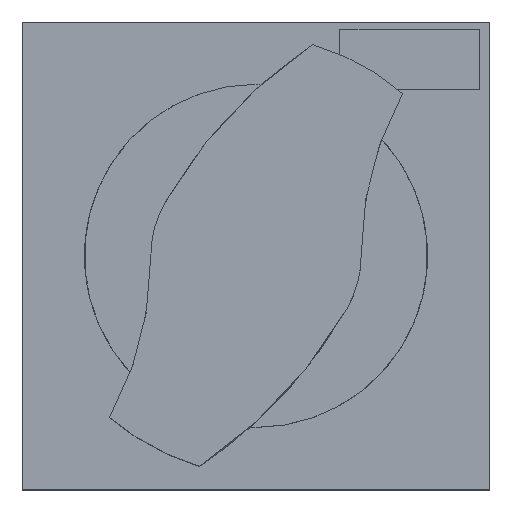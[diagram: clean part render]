
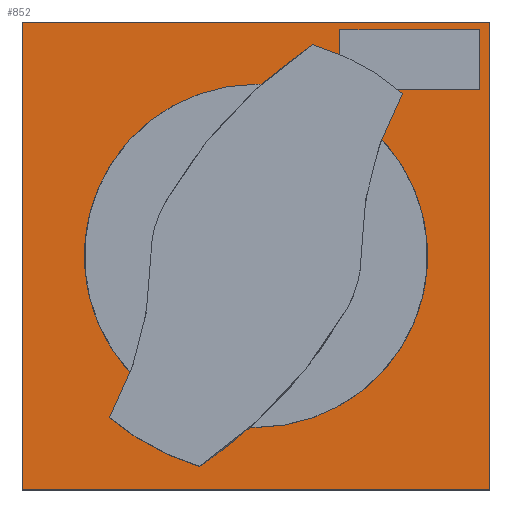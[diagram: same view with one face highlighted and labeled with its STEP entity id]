
A CAD part, top view. The second image highlights one B-rep face of the part: STEP entity #852.
In plain terms, the highlighted planar face has unit normal (0, 0, 1).
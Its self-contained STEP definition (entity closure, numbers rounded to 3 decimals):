
#631=DIRECTION('',(0.,-1.,0.));
#632=VECTOR('',#631,75.);
#633=CARTESIAN_POINT('',(-37.5,37.5,6.75));
#634=LINE('',#633,#632);
#635=DIRECTION('',(-1.,0.,0.));
#636=VECTOR('',#635,75.);
#637=CARTESIAN_POINT('',(37.5,37.5,6.75));
#638=LINE('',#637,#636);
#639=DIRECTION('',(0.,1.,0.));
#640=VECTOR('',#639,75.);
#641=CARTESIAN_POINT('',(37.5,-37.5,6.75));
#642=LINE('',#641,#640);
#643=DIRECTION('',(1.,0.,0.));
#644=VECTOR('',#643,75.);
#645=CARTESIAN_POINT('',(-37.5,-37.5,6.75));
#646=LINE('',#645,#644);
#647=DIRECTION('',(0.,-1.,0.));
#648=VECTOR('',#647,9.501);
#649=CARTESIAN_POINT('',(13.45,36.251,6.75));
#650=LINE('',#649,#648);
#651=DIRECTION('',(1.,0.,0.));
#652=VECTOR('',#651,22.4);
#653=CARTESIAN_POINT('',(13.45,26.749,6.75));
#654=LINE('',#653,#652);
#655=DIRECTION('',(0.,1.,0.));
#656=VECTOR('',#655,9.501);
#657=CARTESIAN_POINT('',(35.85,26.749,6.75));
#658=LINE('',#657,#656);
#659=DIRECTION('',(-1.,0.,0.));
#660=VECTOR('',#659,22.4);
#661=CARTESIAN_POINT('',(35.85,36.251,6.75));
#662=LINE('',#661,#660);
#721=CARTESIAN_POINT('',(-37.5,37.5,6.75));
#722=CARTESIAN_POINT('',(-37.5,-37.5,6.75));
#723=VERTEX_POINT('',#721);
#724=VERTEX_POINT('',#722);
#725=CARTESIAN_POINT('',(37.5,-37.5,6.75));
#726=VERTEX_POINT('',#725);
#727=CARTESIAN_POINT('',(37.5,37.5,6.75));
#728=VERTEX_POINT('',#727);
#737=CARTESIAN_POINT('',(13.45,36.251,6.75));
#738=CARTESIAN_POINT('',(13.45,26.749,6.75));
#739=VERTEX_POINT('',#737);
#740=VERTEX_POINT('',#738);
#741=CARTESIAN_POINT('',(35.85,26.749,6.75));
#742=VERTEX_POINT('',#741);
#743=CARTESIAN_POINT('',(35.85,36.251,6.75));
#744=VERTEX_POINT('',#743);
#831=CARTESIAN_POINT('',(0.,0.,6.75));
#832=DIRECTION('',(0.,0.,1.));
#833=DIRECTION('',(1.,0.,0.));
#834=AXIS2_PLACEMENT_3D('',#831,#832,#833);
#835=PLANE('',#834);
#836=ORIENTED_EDGE('',*,*,#783,.F.);
#837=ORIENTED_EDGE('',*,*,#798,.F.);
#838=ORIENTED_EDGE('',*,*,#812,.F.);
#839=ORIENTED_EDGE('',*,*,#825,.F.);
#840=EDGE_LOOP('',(#836,#837,#838,#839));
#841=FACE_OUTER_BOUND('',#840,.F.);
#843=ORIENTED_EDGE('',*,*,#842,.T.);
#845=ORIENTED_EDGE('',*,*,#844,.T.);
#847=ORIENTED_EDGE('',*,*,#846,.T.);
#849=ORIENTED_EDGE('',*,*,#848,.T.);
#850=EDGE_LOOP('',(#843,#845,#847,#849));
#851=FACE_BOUND('',#850,.F.);
#783=EDGE_CURVE('',#723,#724,#634,.T.);
#798=EDGE_CURVE('',#728,#723,#638,.T.);
#812=EDGE_CURVE('',#726,#728,#642,.T.);
#825=EDGE_CURVE('',#724,#726,#646,.T.);
#842=EDGE_CURVE('',#739,#740,#650,.T.);
#844=EDGE_CURVE('',#740,#742,#654,.T.);
#846=EDGE_CURVE('',#742,#744,#658,.T.);
#848=EDGE_CURVE('',#744,#739,#662,.T.);
#852=ADVANCED_FACE('',(#841,#851),#835,.T.);
